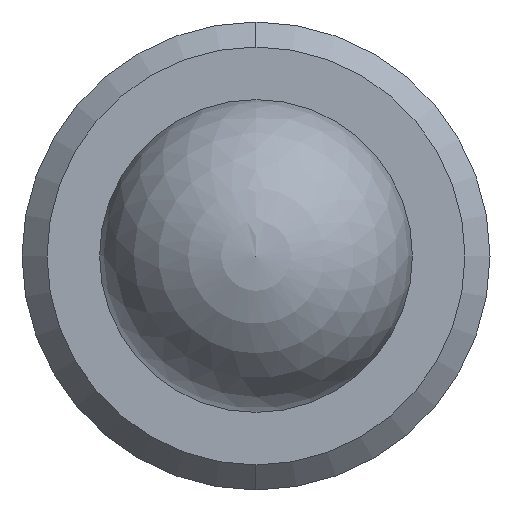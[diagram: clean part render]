
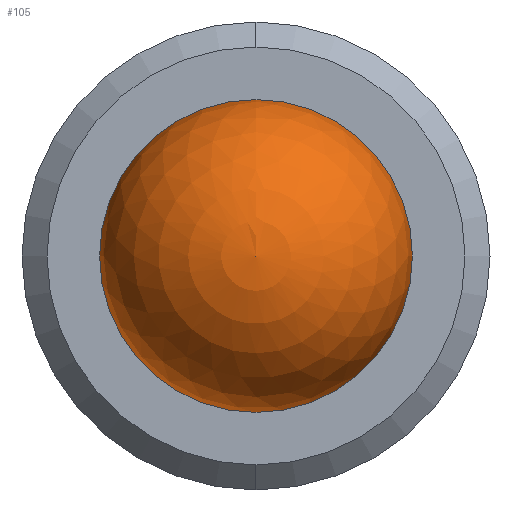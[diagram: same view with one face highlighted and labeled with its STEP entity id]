
A CAD part, left-side view. The second image highlights one B-rep face of the part: STEP entity #105.
In plain terms, the highlighted spherical face has radius 1.587 mm.
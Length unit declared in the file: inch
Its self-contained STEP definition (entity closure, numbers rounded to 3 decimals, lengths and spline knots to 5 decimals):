
#8 = DIRECTION ( 'NONE',  ( 1., 0., 0. ) ) ;
#10 = CIRCLE ( 'NONE', #265, 0.0625 ) ;
#39 = EDGE_CURVE ( 'NONE', #205, #134, #45, .T. ) ;
#45 = CIRCLE ( 'NONE', #311, 0.0625 ) ;
#97 = EDGE_CURVE ( 'NONE', #205, #134, #10, .T. ) ;
#104 = EDGE_LOOP ( 'NONE', ( #565, #179 ) ) ;
#105 = ADVANCED_FACE ( 'NONE', ( #125 ), #131, .T. ) ;
#125 = FACE_OUTER_BOUND ( 'NONE', #104, .T. ) ;
#131 = SPHERICAL_SURFACE ( 'NONE', #242, 0.0625 ) ;
#134 = VERTEX_POINT ( 'NONE', #464 ) ;
#179 = ORIENTED_EDGE ( 'NONE', *, *, #39, .T. ) ;
#200 = CARTESIAN_POINT ( 'NONE',  ( 0., 0., 0. ) ) ;
#205 = VERTEX_POINT ( 'NONE', #446 ) ;
#242 = AXIS2_PLACEMENT_3D ( 'NONE', #600, #471, #583 ) ;
#253 = DIRECTION ( 'NONE',  ( 0., 0., 1. ) ) ;
#265 = AXIS2_PLACEMENT_3D ( 'NONE', #346, #8, #389 ) ;
#311 = AXIS2_PLACEMENT_3D ( 'NONE', #200, #503, #253 ) ;
#346 = CARTESIAN_POINT ( 'NONE',  ( 0., 0., 0. ) ) ;
#389 = DIRECTION ( 'NONE',  ( 0., 0., -1. ) ) ;
#446 = CARTESIAN_POINT ( 'NONE',  ( 0., 0.0625, 0. ) ) ;
#464 = CARTESIAN_POINT ( 'NONE',  ( 0., -0.0625, 0. ) ) ;
#471 = DIRECTION ( 'NONE',  ( -1., 0., 0. ) ) ;
#503 = DIRECTION ( 'NONE',  ( -1., 0., 0. ) ) ;
#565 = ORIENTED_EDGE ( 'NONE', *, *, #97, .F. ) ;
#583 = DIRECTION ( 'NONE',  ( 0., 0., 1. ) ) ;
#600 = CARTESIAN_POINT ( 'NONE',  ( 0., 0., 0. ) ) ;
